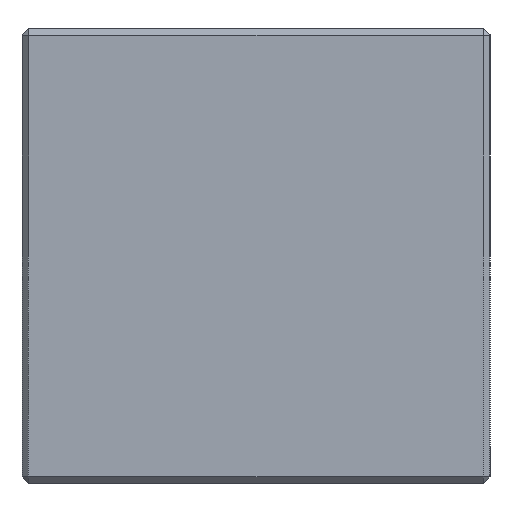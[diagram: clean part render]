
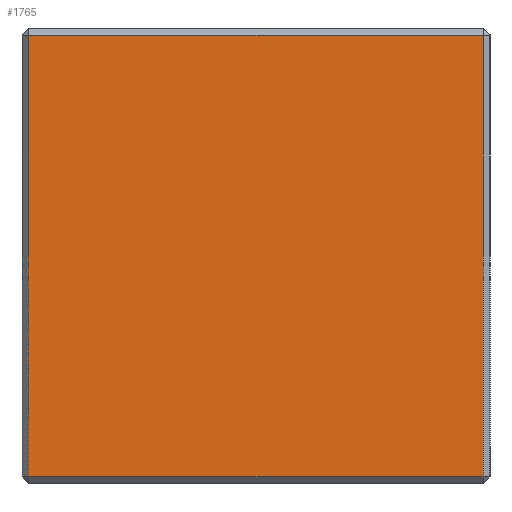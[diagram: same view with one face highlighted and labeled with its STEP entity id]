
A CAD part, left-side view. The second image highlights one B-rep face of the part: STEP entity #1765.
In plain terms, the highlighted planar face has unit normal (-1, 0, 0).
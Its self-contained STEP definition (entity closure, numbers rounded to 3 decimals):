
#80 = CARTESIAN_POINT ( 'NONE',  ( -25., 17.5, -0.5 ) ) ;
#92 = EDGE_CURVE ( 'NONE', #221, #1250, #2301, .T. ) ;
#136 = DIRECTION ( 'NONE',  ( 0., -1., 0. ) ) ;
#184 = DIRECTION ( 'NONE',  ( 0., 0., 1. ) ) ;
#221 = VERTEX_POINT ( 'NONE', #2590 ) ;
#301 = EDGE_CURVE ( 'NONE', #1250, #422, #2403, .T. ) ;
#383 = LINE ( 'NONE', #1510, #2372 ) ;
#400 = EDGE_CURVE ( 'NONE', #1882, #221, #2506, .T. ) ;
#422 = VERTEX_POINT ( 'NONE', #992 ) ;
#499 = DIRECTION ( 'NONE',  ( -1., 0., 0. ) ) ;
#915 = DIRECTION ( 'NONE',  ( 0., 1., 0. ) ) ;
#940 = DIRECTION ( 'NONE',  ( 0., 0., 1. ) ) ;
#992 = CARTESIAN_POINT ( 'NONE',  ( -25., 17.5, -34.5 ) ) ;
#1068 = ORIENTED_EDGE ( 'NONE', *, *, #301, .F. ) ;
#1088 = DIRECTION ( 'NONE',  ( 0., 0., -1. ) ) ;
#1142 = CARTESIAN_POINT ( 'NONE',  ( -25., -18., 0. ) ) ;
#1250 = VERTEX_POINT ( 'NONE', #2478 ) ;
#1333 = EDGE_CURVE ( 'NONE', #422, #1882, #383, .T. ) ;
#1366 = PLANE ( 'NONE',  #1707 ) ;
#1445 = VECTOR ( 'NONE', #915, 1000. ) ;
#1510 = CARTESIAN_POINT ( 'NONE',  ( -25., 17.5, 0. ) ) ;
#1563 = ORIENTED_EDGE ( 'NONE', *, *, #1333, .F. ) ;
#1646 = VECTOR ( 'NONE', #1088, 1000. ) ;
#1707 = AXIS2_PLACEMENT_3D ( 'NONE', #1142, #499, #940 ) ;
#1765 = ADVANCED_FACE ( 'NONE', ( #2155 ), #1366, .T. ) ;
#1882 = VERTEX_POINT ( 'NONE', #80 ) ;
#1890 = CARTESIAN_POINT ( 'NONE',  ( -25., -9., -0.5 ) ) ;
#1900 = CARTESIAN_POINT ( 'NONE',  ( -25., -17.5, 0. ) ) ;
#1906 = ORIENTED_EDGE ( 'NONE', *, *, #92, .F. ) ;
#2104 = VECTOR ( 'NONE', #136, 1000. ) ;
#2155 = FACE_OUTER_BOUND ( 'NONE', #2769, .T. ) ;
#2301 = LINE ( 'NONE', #1900, #1646 ) ;
#2314 = ORIENTED_EDGE ( 'NONE', *, *, #400, .F. ) ;
#2372 = VECTOR ( 'NONE', #184, 1000. ) ;
#2403 = LINE ( 'NONE', #2685, #1445 ) ;
#2478 = CARTESIAN_POINT ( 'NONE',  ( -25., -17.5, -34.5 ) ) ;
#2506 = LINE ( 'NONE', #1890, #2104 ) ;
#2590 = CARTESIAN_POINT ( 'NONE',  ( -25., -17.5, -0.5 ) ) ;
#2685 = CARTESIAN_POINT ( 'NONE',  ( -25., -9., -34.5 ) ) ;
#2769 = EDGE_LOOP ( 'NONE', ( #2314, #1563, #1068, #1906 ) ) ;
